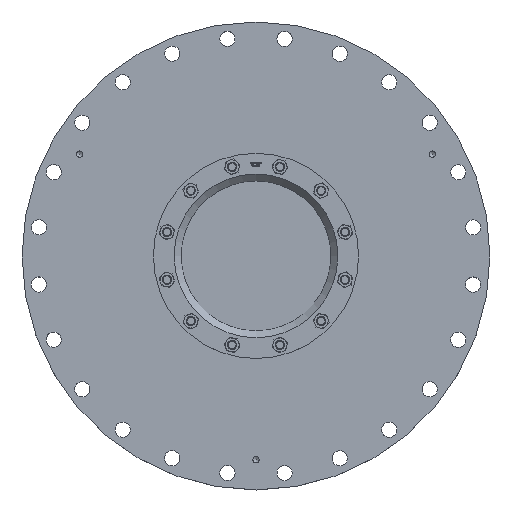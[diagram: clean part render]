
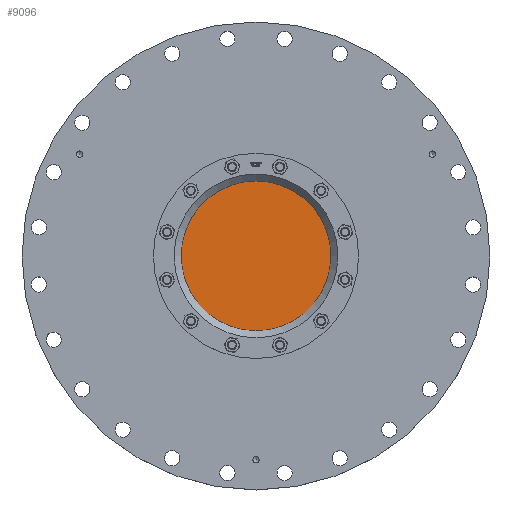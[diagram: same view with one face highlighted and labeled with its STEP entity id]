
A CAD part, top view. The second image highlights one B-rep face of the part: STEP entity #9096.
In plain terms, the highlighted planar face has unit normal (0, 0, 1).
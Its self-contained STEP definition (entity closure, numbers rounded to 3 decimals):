
#2055=FACE_OUTER_BOUND('',#2632,.T.);
#2632=EDGE_LOOP('',(#5770));
#3373=CIRCLE('',#9677,162.5);
#3639=VERTEX_POINT('',#12351);
#4487=EDGE_CURVE('',#3639,#3639,#3373,.T.);
#5770=ORIENTED_EDGE('',*,*,#4487,.F.);
#8312=PLANE('',#9676);
#9096=ADVANCED_FACE('',(#2055),#8312,.F.);
#9676=AXIS2_PLACEMENT_3D('',#12350,#10415,#10416);
#9677=AXIS2_PLACEMENT_3D('',#12352,#10417,#10418);
#10415=DIRECTION('center_axis',(0.,0.,-1.));
#10416=DIRECTION('ref_axis',(-1.,0.,0.));
#10417=DIRECTION('center_axis',(0.,0.,-1.));
#10418=DIRECTION('ref_axis',(-1.,0.,0.));
#12350=CARTESIAN_POINT('Origin',(0.,0.,134.));
#12351=CARTESIAN_POINT('',(162.5,0.,134.));
#12352=CARTESIAN_POINT('Origin',(0.,0.,134.));
